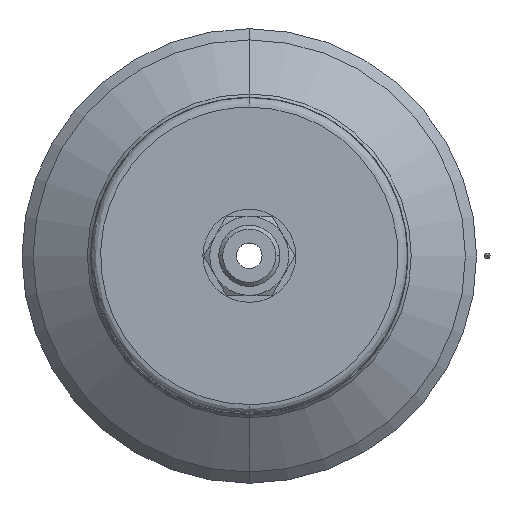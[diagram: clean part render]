
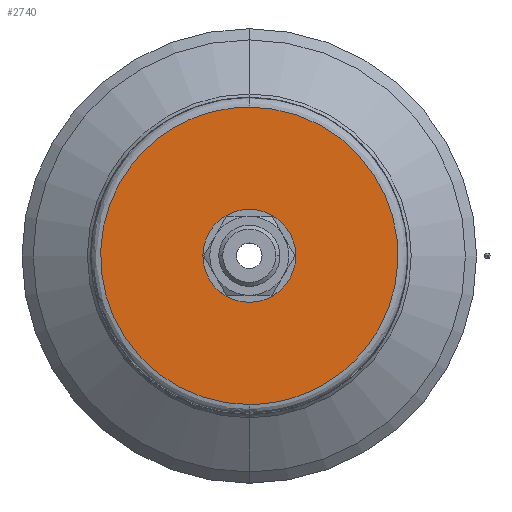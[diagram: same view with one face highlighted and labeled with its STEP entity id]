
A CAD part, top view. The second image highlights one B-rep face of the part: STEP entity #2740.
In plain terms, the highlighted planar face has unit normal (0, 0, 1).
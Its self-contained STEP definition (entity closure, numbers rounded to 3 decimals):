
#107 = ORIENTED_EDGE ( 'NONE', *, *, #2177, .F. ) ;
#204 = VERTEX_POINT ( 'NONE', #1682 ) ;
#296 = CARTESIAN_POINT ( 'NONE',  ( 0., -32., 18.5 ) ) ;
#355 = CIRCLE ( 'NONE', #1531, 10. ) ;
#372 = EDGE_LOOP ( 'NONE', ( #107, #2324 ) ) ;
#787 = AXIS2_PLACEMENT_3D ( 'NONE', #1009, #999, #988 ) ;
#867 = CARTESIAN_POINT ( 'NONE',  ( 64., -32., 18.5 ) ) ;
#988 = DIRECTION ( 'NONE',  ( 0., -1., 0. ) ) ;
#999 = DIRECTION ( 'NONE',  ( 0., 0., 1. ) ) ;
#1006 = DIRECTION ( 'NONE',  ( 0., 0., 1. ) ) ;
#1009 = CARTESIAN_POINT ( 'NONE',  ( 0., 0., 18.5 ) ) ;
#1137 = CARTESIAN_POINT ( 'NONE',  ( 0., -10., 18.5 ) ) ;
#1258 = CARTESIAN_POINT ( 'NONE',  ( 64., 32., 18.5 ) ) ;
#1268 = DIRECTION ( 'NONE',  ( 0., -1., 0. ) ) ;
#1276 = FACE_OUTER_BOUND ( 'NONE', #372, .T. ) ;
#1304 = FACE_BOUND ( 'NONE', #2299, .T. ) ;
#1341 = CARTESIAN_POINT ( 'NONE',  ( 0., 10., 18.5 ) ) ;
#1353 = CARTESIAN_POINT ( 'NONE',  ( 0., 32., 18.5 ) ) ;
#1502 =( BOUNDED_CURVE ( )  B_SPLINE_CURVE ( 3, ( #1353, #1258, #867, #296 ),
 .UNSPECIFIED., .F., .F. ) 
 B_SPLINE_CURVE_WITH_KNOTS ( ( 4, 4 ),
 ( 0., 1. ),
 .UNSPECIFIED. ) 
 CURVE ( )  GEOMETRIC_REPRESENTATION_ITEM ( )  RATIONAL_B_SPLINE_CURVE ( ( 1., 0.333, 0.333, 1. ) ) 
 REPRESENTATION_ITEM ( '' )  );
#1531 = AXIS2_PLACEMENT_3D ( 'NONE', #1637, #1647, #1672 ) ;
#1553 = VERTEX_POINT ( 'NONE', #1341 ) ;
#1637 = CARTESIAN_POINT ( 'NONE',  ( 0., 0., 18.5 ) ) ;
#1647 = DIRECTION ( 'NONE',  ( 0., 0., 1. ) ) ;
#1672 = DIRECTION ( 'NONE',  ( 0., -1., 0. ) ) ;
#1682 = CARTESIAN_POINT ( 'NONE',  ( 0., 32., 18.5 ) ) ;
#1683 = ORIENTED_EDGE ( 'NONE', *, *, #2356, .F. ) ;
#1770 =( BOUNDED_CURVE ( )  B_SPLINE_CURVE ( 3, ( #2598, #2794, #2625, #2627 ),
 .UNSPECIFIED., .F., .T. ) 
 B_SPLINE_CURVE_WITH_KNOTS ( ( 4, 4 ),
 ( 0., 1. ),
 .UNSPECIFIED. ) 
 CURVE ( )  GEOMETRIC_REPRESENTATION_ITEM ( )  RATIONAL_B_SPLINE_CURVE ( ( 1., 0.333, 0.333, 1. ) ) 
 REPRESENTATION_ITEM ( '' )  );
#2006 = EDGE_CURVE ( 'NONE', #2009, #1553, #2813, .T. ) ;
#2009 = VERTEX_POINT ( 'NONE', #1137 ) ;
#2142 = CARTESIAN_POINT ( 'NONE',  ( 19.125, 0., 18.5 ) ) ;
#2177 = EDGE_CURVE ( 'NONE', #204, #2774, #1502, .T. ) ;
#2236 = ORIENTED_EDGE ( 'NONE', *, *, #2006, .F. ) ;
#2299 = EDGE_LOOP ( 'NONE', ( #2236, #1683 ) ) ;
#2324 = ORIENTED_EDGE ( 'NONE', *, *, #2523, .F. ) ;
#2356 = EDGE_CURVE ( 'NONE', #1553, #2009, #355, .T. ) ;
#2451 = CARTESIAN_POINT ( 'NONE',  ( 0., -32., 18.5 ) ) ;
#2523 = EDGE_CURVE ( 'NONE', #2774, #204, #1770, .T. ) ;
#2598 = CARTESIAN_POINT ( 'NONE',  ( 0., -32., 18.5 ) ) ;
#2610 = PLANE ( 'NONE',  #2614 ) ;
#2614 = AXIS2_PLACEMENT_3D ( 'NONE', #2142, #1006, #1268 ) ;
#2625 = CARTESIAN_POINT ( 'NONE',  ( -64., 32., 18.5 ) ) ;
#2627 = CARTESIAN_POINT ( 'NONE',  ( 0., 32., 18.5 ) ) ;
#2740 = ADVANCED_FACE ( 'NONE', ( #1304, #1276 ), #2610, .T. ) ;
#2774 = VERTEX_POINT ( 'NONE', #2451 ) ;
#2794 = CARTESIAN_POINT ( 'NONE',  ( -64., -32., 18.5 ) ) ;
#2813 = CIRCLE ( 'NONE', #787, 10. ) ;
